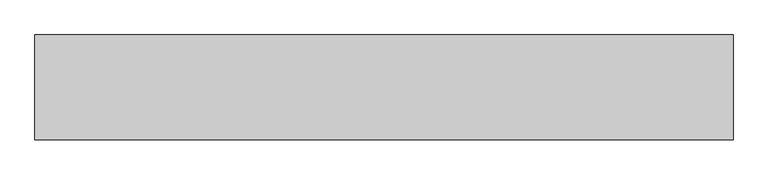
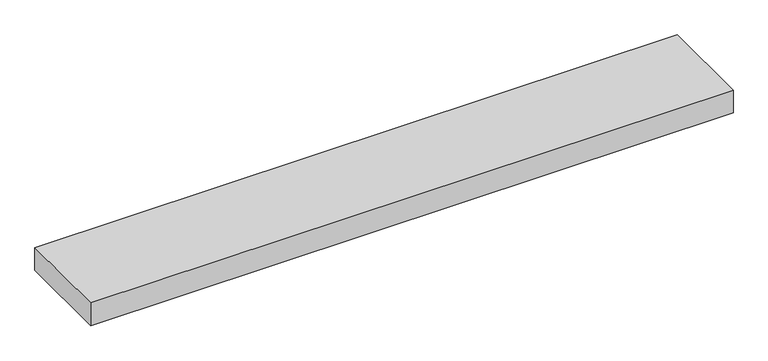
"""IFC4 building model written with IfcOpenShell, lengths in millimetres: light fixture geometry, GENILED_Светильник светодиодный_ЛПО Низковольтный : ЛПО 1200x180x45 40Вт 12В IP54 Опал."""

from ifc_helpers import new_model, si_unit, origin, place, context, project, spatial, faceted_brep, source, transform, mapped, element, save


def light_fixture_0b688929(model_context):
    return source(origin(), model_context, "Body", "Brep", [
        faceted_brep([(600.0, 90.0, 45.0), (-600.0, 90.0, 45.0), (-600.0, -90.0, 45.0), (600.0, -90.0, 45.0), (590.0, 80.0, 5.0), (590.0, -80.0, 5.0), (-590.0, -80.0, 5.0), (-590.0, 80.0, 5.0), (600.0, 90.0, 0.0), (600.0, -90.0, 0.0), (-600.0, -90.0, 0.0), (-600.0, 90.0, 0.0), (590.0, 80.0, 0.0), (-590.0, 80.0, 0.0), (-590.0, -80.0, 0.0), (590.0, -80.0, 0.0)], [[[0, 1, 2, 3]], [[4, 5, 6, 7]], [[8, 9, 10, 11], [12, 13, 14, 15]], [[1, 0, 8, 11]], [[2, 1, 11, 10]], [[3, 2, 10, 9]], [[0, 3, 9, 8]], [[12, 15, 5, 4]], [[15, 14, 6, 5]], [[14, 13, 7, 6]], [[13, 12, 4, 7]]]),
    ])


if __name__ == "__main__":
    model = new_model("IFC4")
    model_context = context("Model", 3, world=origin())
    ifc_project = project(units=[si_unit("LENGTHUNIT", "METRE", prefix="MILLI")], contexts=[model_context])
    site = spatial("IfcSite", under=ifc_project)
    building = spatial("IfcBuilding", under=site)
    placement = place(None, origin())
    light_fixture_shape = light_fixture_0b688929(model_context)
    element("IfcLightFixture", 1, ObjectType="GENILED_Светильник светодиодный_ЛПО Низковольтный : ЛПО 1200x180x45 40Вт 12В IP54 Опал", at=placement, inside=building, context=model_context, shape_type="MappedRepresentation", body=[
        mapped(light_fixture_shape, transform((0.0, 0.0, 0.0), x_axis=(1.0, 0.0, 0.0), y_axis=(0.0, 1.0, 0.0), z_axis=(0.0, 0.0, 1.0))),
    ])
    save(model, "model.ifc")
